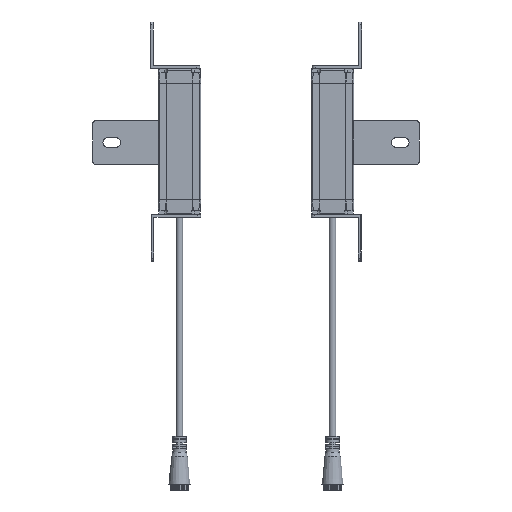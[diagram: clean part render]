
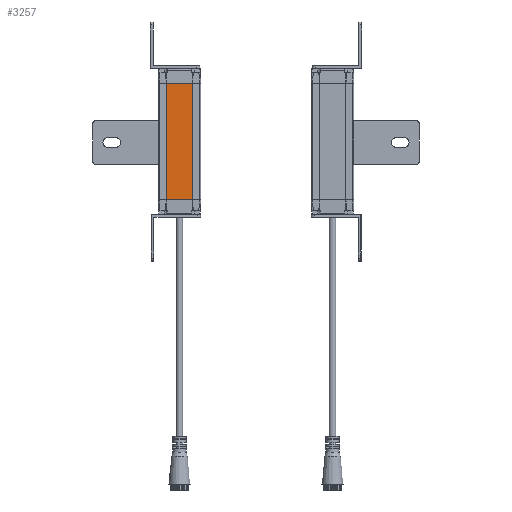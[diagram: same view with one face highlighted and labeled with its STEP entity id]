
A CAD part, left-side view. The second image highlights one B-rep face of the part: STEP entity #3257.
In plain terms, the highlighted planar face has unit normal (-1, 0, 0).
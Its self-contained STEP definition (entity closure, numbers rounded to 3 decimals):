
#1765=FACE_OUTER_BOUND('',#5844,.T.);
#3257=ADVANCED_FACE('',(#1765),#4647,.T.);
#4647=PLANE('',#29083);
#5844=EDGE_LOOP('',(#8994,#8995,#8996,#8997));
#8994=ORIENTED_EDGE('',*,*,#18905,.F.);
#8995=ORIENTED_EDGE('',*,*,#18594,.T.);
#8996=ORIENTED_EDGE('',*,*,#18907,.T.);
#8997=ORIENTED_EDGE('',*,*,#18908,.F.);
#15739=VERTEX_POINT('',#42633);
#15740=VERTEX_POINT('',#42635);
#15951=VERTEX_POINT('',#43257);
#15952=VERTEX_POINT('',#43261);
#18594=EDGE_CURVE('',#15740,#15739,#24041,.T.);
#18905=EDGE_CURVE('',#15740,#15951,#24262,.T.);
#18907=EDGE_CURVE('',#15739,#15952,#24264,.T.);
#18908=EDGE_CURVE('',#15951,#15952,#24265,.T.);
#24041=LINE('',#42634,#26444);
#24262=LINE('',#43256,#26665);
#24264=LINE('',#43260,#26667);
#24265=LINE('',#43262,#26668);
#26444=VECTOR('',#32558,1.);
#26665=VECTOR('',#33159,1.);
#26667=VECTOR('',#33163,1.);
#26668=VECTOR('',#33164,1.);
#29083=AXIS2_PLACEMENT_3D('',#43263,#33165,#33166);
#32558=DIRECTION('',(0.,1.,0.));
#33159=DIRECTION('',(0.,0.,-1.));
#33163=DIRECTION('',(0.,0.,-1.));
#33164=DIRECTION('',(0.,1.,0.));
#33165=DIRECTION('',(-1.,0.,0.));
#33166=DIRECTION('',(0.,-1.,0.));
#42633=CARTESIAN_POINT('',(50.4,-5.5,38.059));
#42634=CARTESIAN_POINT('',(50.4,-5.5,38.059));
#42635=CARTESIAN_POINT('',(50.4,-23.5,38.059));
#43256=CARTESIAN_POINT('',(50.4,-23.5,103.059));
#43257=CARTESIAN_POINT('',(50.4,-23.5,-41.941));
#43260=CARTESIAN_POINT('',(50.4,-5.5,103.059));
#43261=CARTESIAN_POINT('',(50.4,-5.5,-41.941));
#43262=CARTESIAN_POINT('',(50.4,-23.5,-41.941));
#43263=CARTESIAN_POINT('',(50.4,-5.5,-61.941));
